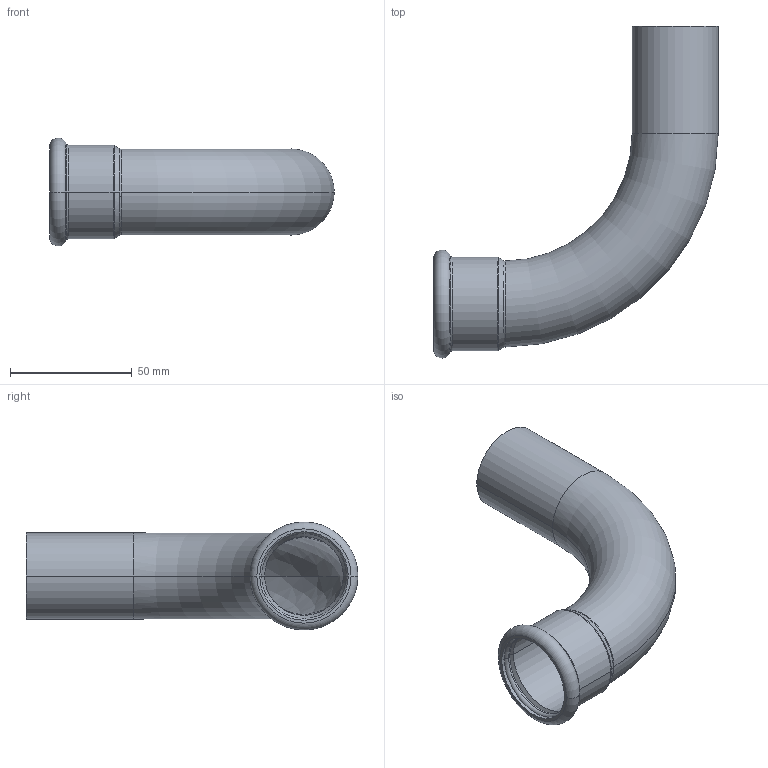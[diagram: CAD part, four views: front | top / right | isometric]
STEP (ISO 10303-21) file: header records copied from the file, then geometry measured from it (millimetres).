
FILE_DESCRIPTION (( 'STEP AP214' ), '1' );
FILE_NAME ('E35000B.STEP', '2025-08-17T07:54:31', ( '' ), ( '' ), 'SwSTEP 2.0', 'SolidWorks 2020', '' );
FILE_SCHEMA (( 'AUTOMOTIVE_DESIGN' ));
Length unit declared in the file: millimetre
Products named in the file (1): E35000B
Bounding box: 116.65 x 136.15 x 44.3 mm (x, y, z)
Volume: 31145.3 mm3; surface area: 41760.2 mm2
Topology: 2 solids, 2 shells, 39 faces, 83 edges, 47 vertices
Faces by surface type: torus 14, cylinder 8, cone 8, bspline 6, plane 3
Entity records: 2853 total; most frequent: CARTESIAN_POINT 1637, DIRECTION 186, ORIENTED_EDGE 166, AXIS2_PLACEMENT_3D 84, EDGE_CURVE 83, CIRCLE 50, VERTEX_POINT 47, EDGE_LOOP 42
